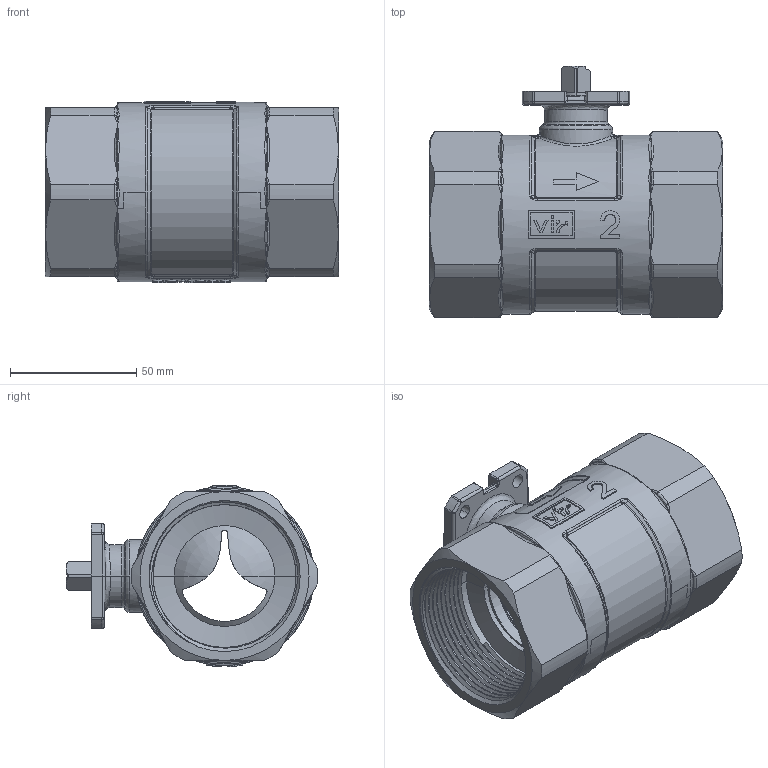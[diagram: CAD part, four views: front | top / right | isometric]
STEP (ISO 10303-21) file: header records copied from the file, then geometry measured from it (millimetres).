
FILE_DESCRIPTION((''),'2;1');
FILE_NAME('H980SX050_1527_SW0001','2015-05-20T',('64ciro'),('Vir spa'),'PRO/ENGINEER BY PARAMETRIC TECHNOLOGY CORPORATION, 2010280','PRO/ENGINEER BY PARAMETRIC TECHNOLOGY CORPORATION, 2010280','');
FILE_SCHEMA(('CONFIG_CONTROL_DESIGN'));
Length unit declared in the file: millimetre
Products named in the file (1): H980SX050_1527_SW0001
Bounding box: 116.2 x 99.79 x 71.98 mm (x, y, z)
Volume: 222954.8 mm3; surface area: 94523.5 mm2
Topology: 1 solids, 3 shells, 1083 faces, 2825 edges, 1698 vertices
Faces by surface type: plane 524, cylinder 233, bspline 150, cone 82, torus 70, sphere 22, extrusion 2
Entity records: 49168 total; most frequent: CARTESIAN_POINT 25580, ORIENTED_EDGE 5458, DIRECTION 4083, EDGE_CURVE 2729, VERTEX_POINT 1698, AXIS2_PLACEMENT_3D 1572, B_SPLINE_CURVE_WITH_KNOTS 1153, EDGE_LOOP 1147
